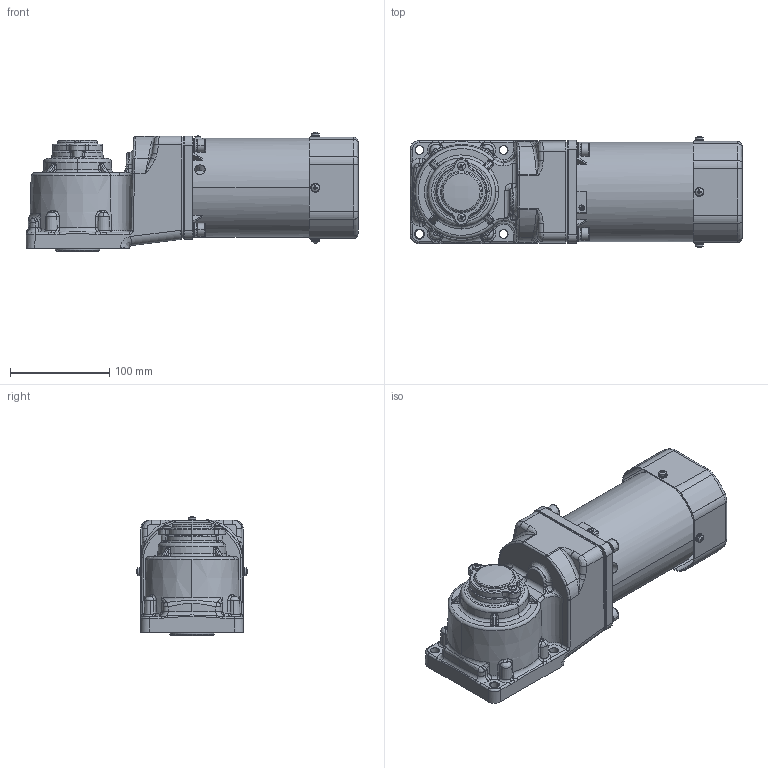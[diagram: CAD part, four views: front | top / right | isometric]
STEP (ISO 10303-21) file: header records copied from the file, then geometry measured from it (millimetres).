
FILE_DESCRIPTION (( 'STEP AP203' ), '1' );
FILE_NAME ('6IK120GU-CF(6GU3RC-180RC)ÐÂ.STEP', '2023-07-07T03:19:20', ( 'Windows User' ), ( 'P R C' ), 'SwSTEP 2.0', 'SolidWorks 2019', '' );
FILE_SCHEMA (( 'CONFIG_CONTROL_DESIGN' ));
Length unit declared in the file: millimetre
Products named in the file (5): 100RC____________________^6IK120GU-CF(6GU3RC-180RC)陔(2)_6IK120GU-CF(6GU3RC-180RC)陔; ^_6IK120GU-CF(6GU3RC-180RC)陔(2)_6IK120GU-CF(6GU3RC-180RC)陔; 6IK120GU-CF(6GU3RC-180RC)陔(2)^6IK120GU-CF(6GU3RC-180RC)陔; ^6IK120GU-CF(6GU3RC-180RC)陔(2)_6IK120GU-CF(6GU3RC-180RC)陔; 6IK120GU-CF(6GU3RC-180RC)陔
Assembly tree (4 placements, depth 4):
  6IK120GU-CF(6GU3RC-180RC)陔
    6IK120GU-CF(6GU3RC-180RC)陔(2)^6IK120GU-CF(6GU3RC-180RC)陔
      ^6IK120GU-CF(6GU3RC-180RC)陔(2)_6IK120GU-CF(6GU3RC-180RC)陔
        ^_6IK120GU-CF(6GU3RC-180RC)陔(2)_6IK120GU-CF(6GU3RC-180RC)陔
      100RC____________________^6IK120GU-CF(6GU3RC-180RC)陔(2)_6IK120GU-CF(6GU3RC-180RC)陔
Bounding box: 334.98 x 111.91 x 120.46 mm (x, y, z)
Volume: 2353015.1 mm3; surface area: 266753.5 mm2
Topology: 32 solids, 42 shells, 2011 faces, 4897 edges, 2979 vertices
Faces by surface type: plane 629, cylinder 529, cone 346, bspline 335, torus 124, sphere 48
Entity records: 79336 total; most frequent: CARTESIAN_POINT 35020, ORIENTED_EDGE 9702, DIRECTION 8513, EDGE_CURVE 4851, AXIS2_PLACEMENT_3D 3345, VERTEX_POINT 2979, EDGE_LOOP 2142, ADVANCED_FACE 2011
